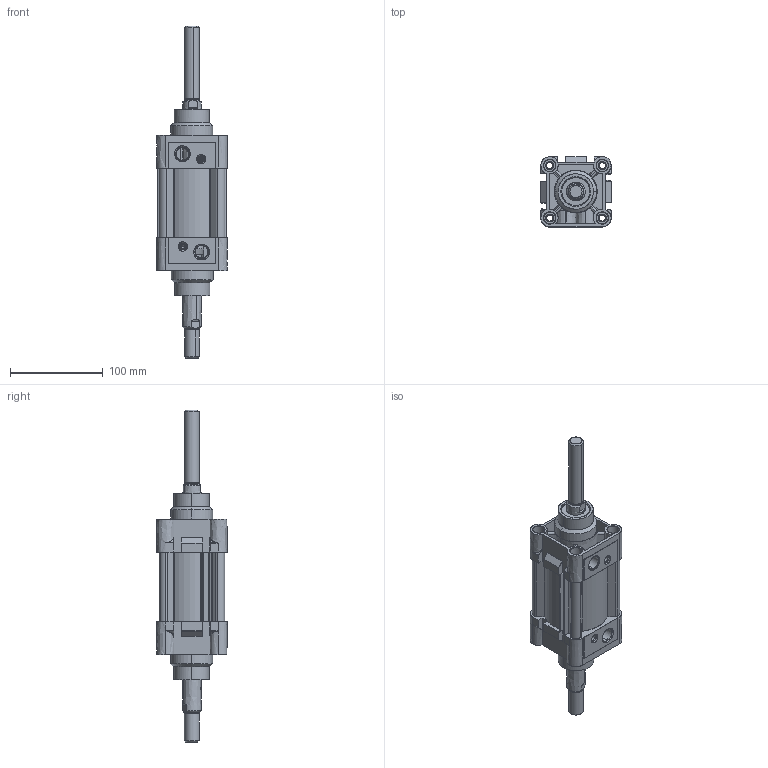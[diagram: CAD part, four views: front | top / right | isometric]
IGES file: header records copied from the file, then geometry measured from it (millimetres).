
Start section: SolidWorks IGES file using analytic representation for surfaces
Global section: file name: D:\ARICA 3D ﾇﾝZﾝMLER\3D IGES\KDNT ﾇﾝFT MﾝLLﾝ STROK AYARLI\KDNT63 STROK AYARLI\KDNT63X25CIFTMILLI-STROK AYARLI-CYLINDER.IGS; native system: SolidWorks 2013; preprocessor: SolidWorks 2013; author: user; date: 160326.094556; units: millimetre
Bounding box: 75.55 x 75.83 x 357.3 mm (x, y, z)
Surface area: 211235.7 mm2 (no closed solid volume)
Topology: 0 solids, 0 shells, 892 faces, 16606 edges, 16594 vertices
Faces by surface type: revolution 526, bspline 366
